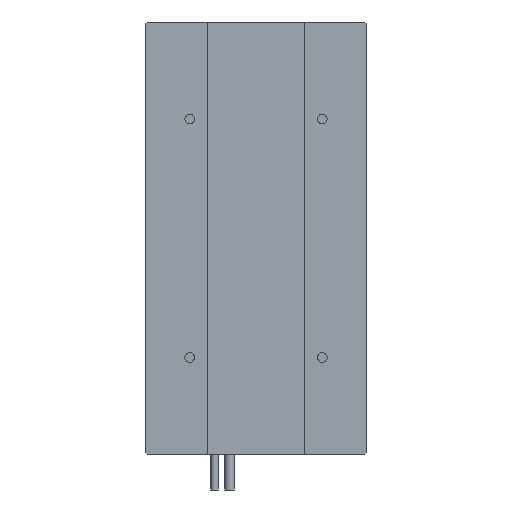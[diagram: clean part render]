
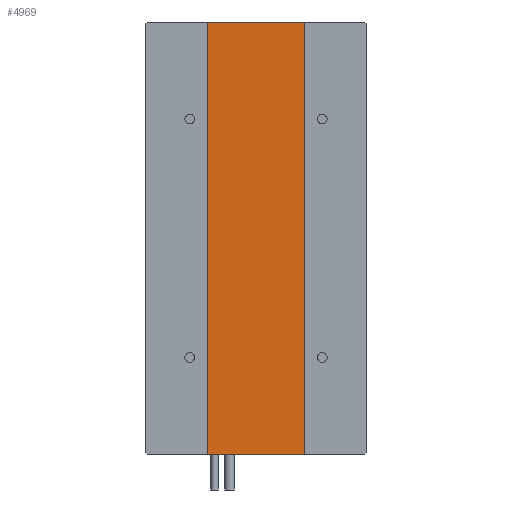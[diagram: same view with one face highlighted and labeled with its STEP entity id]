
A CAD part, front view. The second image highlights one B-rep face of the part: STEP entity #4969.
In plain terms, the highlighted planar face has unit normal (0, -1, 0).
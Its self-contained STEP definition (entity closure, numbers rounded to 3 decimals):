
#241 = DIRECTION ( 'NONE',  ( -1., 0., 0. ) ) ;
#305 = CARTESIAN_POINT ( 'NONE',  ( -27.5, 0.5, -122.5 ) ) ;
#377 = CARTESIAN_POINT ( 'NONE',  ( -27.5, 0.5, -177.502 ) ) ;
#426 = ORIENTED_EDGE ( 'NONE', *, *, #4271, .F. ) ;
#457 = PLANE ( 'NONE',  #5025 ) ;
#486 = DIRECTION ( 'NONE',  ( 0., 1., 0. ) ) ;
#496 = DIRECTION ( 'NONE',  ( 0., 0., 1. ) ) ;
#684 = CARTESIAN_POINT ( 'NONE',  ( 27.5, 0.5, 122.5 ) ) ;
#1608 = CARTESIAN_POINT ( 'NONE',  ( 27.5, 0.5, -122.5 ) ) ;
#1642 = EDGE_LOOP ( 'NONE', ( #4742, #6351, #426, #2509 ) ) ;
#1650 = DIRECTION ( 'NONE',  ( 0., 0., 1. ) ) ;
#1664 = CARTESIAN_POINT ( 'NONE',  ( 27.5, 0.5, -177.502 ) ) ;
#1692 = LINE ( 'NONE', #4713, #4701 ) ;
#1694 = CARTESIAN_POINT ( 'NONE',  ( -27.5, 0.5, -177.502 ) ) ;
#1711 = DIRECTION ( 'NONE',  ( 0., 0., 1. ) ) ;
#1753 = VECTOR ( 'NONE', #1650, 1000. ) ;
#1900 = VECTOR ( 'NONE', #1711, 1000. ) ;
#2138 = LINE ( 'NONE', #1664, #1753 ) ;
#2509 = ORIENTED_EDGE ( 'NONE', *, *, #4668, .F. ) ;
#2651 = LINE ( 'NONE', #5379, #4120 ) ;
#2794 = FACE_OUTER_BOUND ( 'NONE', #1642, .T. ) ;
#3294 = VERTEX_POINT ( 'NONE', #5899 ) ;
#3403 = EDGE_CURVE ( 'NONE', #4489, #3294, #2651, .T. ) ;
#4120 = VECTOR ( 'NONE', #5362, 1000. ) ;
#4271 = EDGE_CURVE ( 'NONE', #4636, #3294, #6136, .T. ) ;
#4280 = EDGE_CURVE ( 'NONE', #5005, #4489, #2138, .T. ) ;
#4489 = VERTEX_POINT ( 'NONE', #684 ) ;
#4636 = VERTEX_POINT ( 'NONE', #305 ) ;
#4668 = EDGE_CURVE ( 'NONE', #5005, #4636, #1692, .T. ) ;
#4701 = VECTOR ( 'NONE', #241, 1000. ) ;
#4713 = CARTESIAN_POINT ( 'NONE',  ( -27.5, 0.5, -122.5 ) ) ;
#4742 = ORIENTED_EDGE ( 'NONE', *, *, #4280, .T. ) ;
#4969 = ADVANCED_FACE ( 'NONE', ( #2794 ), #457, .F. ) ;
#5005 = VERTEX_POINT ( 'NONE', #1608 ) ;
#5025 = AXIS2_PLACEMENT_3D ( 'NONE', #377, #486, #496 ) ;
#5362 = DIRECTION ( 'NONE',  ( -1., 0., 0. ) ) ;
#5379 = CARTESIAN_POINT ( 'NONE',  ( -27.5, 0.5, 122.5 ) ) ;
#5899 = CARTESIAN_POINT ( 'NONE',  ( -27.5, 0.5, 122.5 ) ) ;
#6136 = LINE ( 'NONE', #1694, #1900 ) ;
#6351 = ORIENTED_EDGE ( 'NONE', *, *, #3403, .T. ) ;
